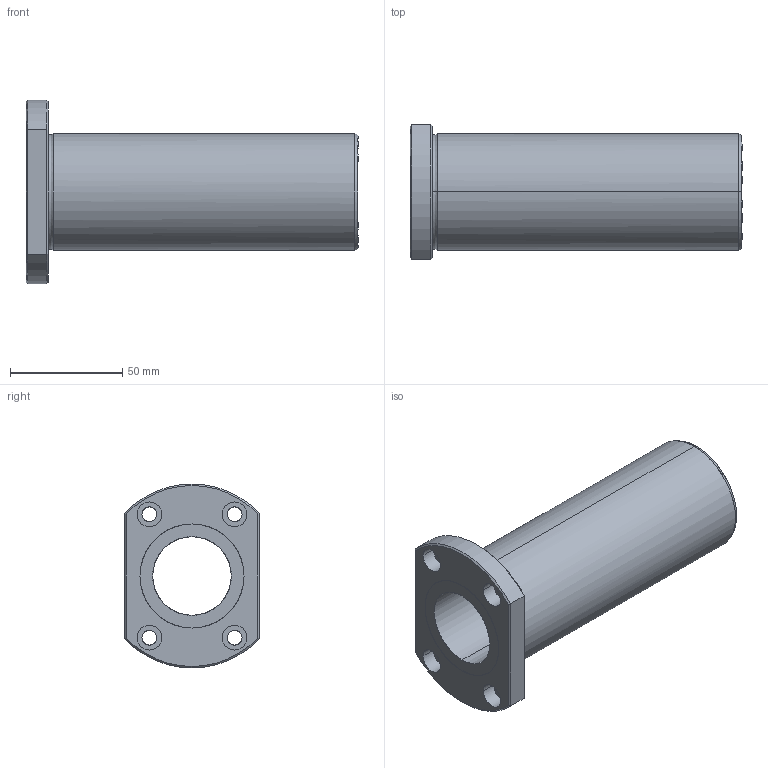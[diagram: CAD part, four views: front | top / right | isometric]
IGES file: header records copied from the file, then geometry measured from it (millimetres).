
Global section: file name: No Iges File Name specified; native system: AutoDesk Inventor R11.0; preprocessor: AutoDesk Inventor Iges Exporter R11.0; author: No Author specified; organization: No Organization specified; date: 20170921.141916; units: millimetre
Bounding box: 148 x 60 x 82 mm (x, y, z)
Surface area: 48922.1 mm2 (no closed solid volume)
Topology: 0 solids, 0 shells, 50 faces, 338 edges, 338 vertices
Faces by surface type: bspline 50
